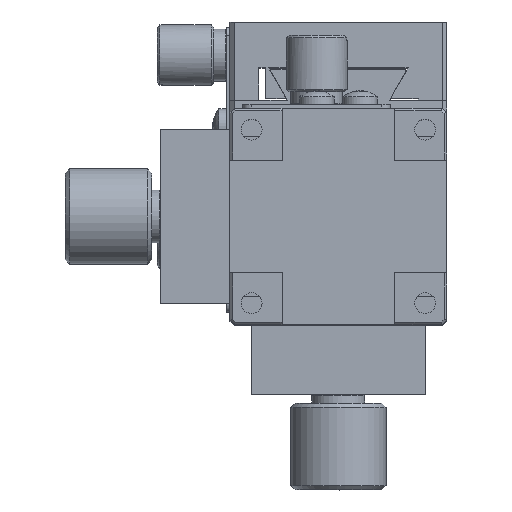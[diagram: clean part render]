
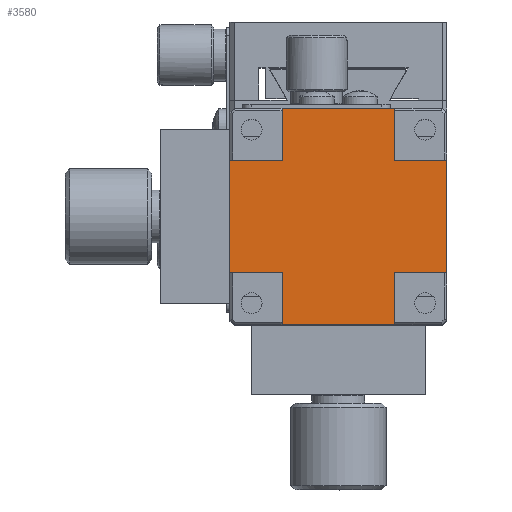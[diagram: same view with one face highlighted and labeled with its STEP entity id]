
A CAD part, top view. The second image highlights one B-rep face of the part: STEP entity #3580.
In plain terms, the highlighted planar face has unit normal (0, 0, 1).
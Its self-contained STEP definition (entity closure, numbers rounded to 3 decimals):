
#830 = CARTESIAN_POINT ( 'NONE',  ( 19., 5., 42.1 ) ) ;
#1559 = LINE ( 'NONE', #830, #63522 ) ;
#2118 = CARTESIAN_POINT ( 'NONE',  ( 25., 5., 42.1 ) ) ;
#2682 = DIRECTION ( 'NONE',  ( 0., 1., 0. ) ) ;
#2776 = DIRECTION ( 'NONE',  ( 1., 0., 0. ) ) ;
#2913 = ORIENTED_EDGE ( 'NONE', *, *, #62364, .F. ) ;
#3335 = VERTEX_POINT ( 'NONE', #12453 ) ;
#3580 = ADVANCED_FACE ( 'NONE', ( #31540 ), #26989, .T. ) ;
#4598 = CARTESIAN_POINT ( 'NONE',  ( 0., -1., 42.1 ) ) ;
#4878 = VECTOR ( 'NONE', #14251, 1000. ) ;
#6040 = DIRECTION ( 'NONE',  ( -1., 0., 0. ) ) ;
#6947 = CARTESIAN_POINT ( 'NONE',  ( 25., -14., 42.1 ) ) ;
#8011 = VERTEX_POINT ( 'NONE', #61820 ) ;
#8301 = VECTOR ( 'NONE', #13531, 1000. ) ;
#8931 = CARTESIAN_POINT ( 'NONE',  ( 25., -20., 42.1 ) ) ;
#10142 = CARTESIAN_POINT ( 'NONE',  ( 0., -14., 42.1 ) ) ;
#10665 = ORIENTED_EDGE ( 'NONE', *, *, #68191, .F. ) ;
#11480 = VECTOR ( 'NONE', #2682, 1000. ) ;
#12453 = CARTESIAN_POINT ( 'NONE',  ( 6., -14., 42.1 ) ) ;
#12757 = DIRECTION ( 'NONE',  ( 0., 1., 0. ) ) ;
#13531 = DIRECTION ( 'NONE',  ( 0., -1., 0. ) ) ;
#14171 = LINE ( 'NONE', #37675, #16511 ) ;
#14251 = DIRECTION ( 'NONE',  ( -1., 0., 0. ) ) ;
#14692 = ORIENTED_EDGE ( 'NONE', *, *, #57361, .F. ) ;
#16073 = CARTESIAN_POINT ( 'NONE',  ( 19., 5., 42.1 ) ) ;
#16511 = VECTOR ( 'NONE', #2776, 1000. ) ;
#16593 = VERTEX_POINT ( 'NONE', #71577 ) ;
#16778 = VERTEX_POINT ( 'NONE', #63534 ) ;
#18598 = VERTEX_POINT ( 'NONE', #64528 ) ;
#19908 = VERTEX_POINT ( 'NONE', #69517 ) ;
#20052 = DIRECTION ( 'NONE',  ( 0., 1., 0. ) ) ;
#24528 = LINE ( 'NONE', #2118, #57579 ) ;
#24717 = CARTESIAN_POINT ( 'NONE',  ( 6., 5., 42.1 ) ) ;
#25198 = VERTEX_POINT ( 'NONE', #4598 ) ;
#25265 = LINE ( 'NONE', #43087, #4878 ) ;
#25297 = DIRECTION ( 'NONE',  ( -1., 0., 0. ) ) ;
#25845 = DIRECTION ( 'NONE',  ( -1., 0., 0. ) ) ;
#25968 = EDGE_CURVE ( 'NONE', #16778, #19908, #45691, .T. ) ;
#26989 = PLANE ( 'NONE',  #42598 ) ;
#27153 = LINE ( 'NONE', #8931, #49762 ) ;
#28115 = EDGE_LOOP ( 'NONE', ( #66189, #59732, #14692, #64205, #60728, #10665, #64584, #51302, #53036, #30680, #34048, #2913 ) ) ;
#28590 = DIRECTION ( 'NONE',  ( 0., -1., 0. ) ) ;
#29195 = LINE ( 'NONE', #58086, #31566 ) ;
#29223 = EDGE_CURVE ( 'NONE', #41240, #18598, #24528, .T. ) ;
#29674 = EDGE_CURVE ( 'NONE', #8011, #43873, #66113, .T. ) ;
#30607 = VECTOR ( 'NONE', #28590, 1000. ) ;
#30680 = ORIENTED_EDGE ( 'NONE', *, *, #29223, .T. ) ;
#31540 = FACE_OUTER_BOUND ( 'NONE', #28115, .T. ) ;
#31566 = VECTOR ( 'NONE', #6040, 1000. ) ;
#31659 = VERTEX_POINT ( 'NONE', #16073 ) ;
#32298 = EDGE_CURVE ( 'NONE', #25198, #51430, #59526, .T. ) ;
#33492 = CARTESIAN_POINT ( 'NONE',  ( 0., -1., 42.1 ) ) ;
#34048 = ORIENTED_EDGE ( 'NONE', *, *, #67414, .F. ) ;
#36078 = VERTEX_POINT ( 'NONE', #52528 ) ;
#37049 = CARTESIAN_POINT ( 'NONE',  ( 0., -14., 42.1 ) ) ;
#37675 = CARTESIAN_POINT ( 'NONE',  ( 25., -1., 42.1 ) ) ;
#41240 = VERTEX_POINT ( 'NONE', #6947 ) ;
#41632 = CARTESIAN_POINT ( 'NONE',  ( 0., 5., 42.1 ) ) ;
#42598 = AXIS2_PLACEMENT_3D ( 'NONE', #71835, #67278, #25845 ) ;
#42749 = CARTESIAN_POINT ( 'NONE',  ( 6., 5., 42.1 ) ) ;
#43087 = CARTESIAN_POINT ( 'NONE',  ( 25., 5., 42.1 ) ) ;
#43435 = VECTOR ( 'NONE', #25297, 1000. ) ;
#43811 = EDGE_CURVE ( 'NONE', #3335, #51430, #61738, .T. ) ;
#43873 = VERTEX_POINT ( 'NONE', #42749 ) ;
#45691 = LINE ( 'NONE', #62818, #30607 ) ;
#49562 = DIRECTION ( 'NONE',  ( 1., 0., 0. ) ) ;
#49762 = VECTOR ( 'NONE', #49562, 1000. ) ;
#51302 = ORIENTED_EDGE ( 'NONE', *, *, #25968, .F. ) ;
#51430 = VERTEX_POINT ( 'NONE', #10142 ) ;
#52528 = CARTESIAN_POINT ( 'NONE',  ( 19., -1., 42.1 ) ) ;
#53036 = ORIENTED_EDGE ( 'NONE', *, *, #54871, .F. ) ;
#54052 = EDGE_CURVE ( 'NONE', #31659, #43873, #25265, .T. ) ;
#54199 = EDGE_CURVE ( 'NONE', #16593, #19908, #27153, .T. ) ;
#54871 = EDGE_CURVE ( 'NONE', #41240, #16778, #29195, .T. ) ;
#55401 = VECTOR ( 'NONE', #20052, 1000. ) ;
#57361 = EDGE_CURVE ( 'NONE', #25198, #8011, #73425, .T. ) ;
#57579 = VECTOR ( 'NONE', #12757, 1000. ) ;
#58086 = CARTESIAN_POINT ( 'NONE',  ( 25., -14., 42.1 ) ) ;
#58937 = DIRECTION ( 'NONE',  ( 0., -1., 0. ) ) ;
#59526 = LINE ( 'NONE', #41632, #8301 ) ;
#59732 = ORIENTED_EDGE ( 'NONE', *, *, #29674, .F. ) ;
#60728 = ORIENTED_EDGE ( 'NONE', *, *, #43811, .F. ) ;
#61738 = LINE ( 'NONE', #37049, #43435 ) ;
#61820 = CARTESIAN_POINT ( 'NONE',  ( 6., -1., 42.1 ) ) ;
#62364 = EDGE_CURVE ( 'NONE', #31659, #36078, #1559, .T. ) ;
#62818 = CARTESIAN_POINT ( 'NONE',  ( 19., -20., 42.1 ) ) ;
#63522 = VECTOR ( 'NONE', #58937, 1000. ) ;
#63534 = CARTESIAN_POINT ( 'NONE',  ( 19., -14., 42.1 ) ) ;
#64205 = ORIENTED_EDGE ( 'NONE', *, *, #32298, .T. ) ;
#64528 = CARTESIAN_POINT ( 'NONE',  ( 25., -1., 42.1 ) ) ;
#64584 = ORIENTED_EDGE ( 'NONE', *, *, #54199, .T. ) ;
#66113 = LINE ( 'NONE', #24717, #11480 ) ;
#66189 = ORIENTED_EDGE ( 'NONE', *, *, #54052, .T. ) ;
#67278 = DIRECTION ( 'NONE',  ( 0., 0., 1. ) ) ;
#67414 = EDGE_CURVE ( 'NONE', #36078, #18598, #14171, .T. ) ;
#68191 = EDGE_CURVE ( 'NONE', #16593, #3335, #72500, .T. ) ;
#69189 = VECTOR ( 'NONE', #72282, 1000. ) ;
#69517 = CARTESIAN_POINT ( 'NONE',  ( 19., -20., 42.1 ) ) ;
#71577 = CARTESIAN_POINT ( 'NONE',  ( 6., -20., 42.1 ) ) ;
#71835 = CARTESIAN_POINT ( 'NONE',  ( 12.5, -7.5, 42.1 ) ) ;
#72115 = CARTESIAN_POINT ( 'NONE',  ( 6., -20., 42.1 ) ) ;
#72282 = DIRECTION ( 'NONE',  ( 1., 0., 0. ) ) ;
#72500 = LINE ( 'NONE', #72115, #55401 ) ;
#73425 = LINE ( 'NONE', #33492, #69189 ) ;
